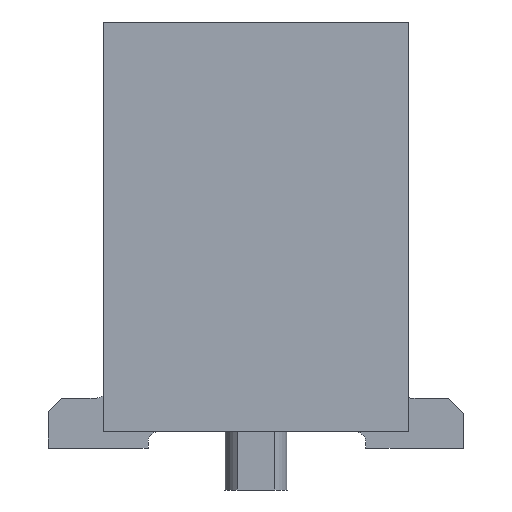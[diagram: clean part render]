
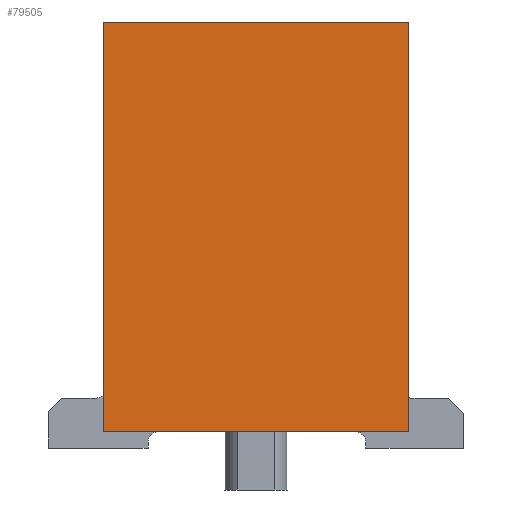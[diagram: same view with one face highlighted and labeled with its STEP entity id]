
A CAD part, left-side view. The second image highlights one B-rep face of the part: STEP entity #79505.
In plain terms, the highlighted planar face has unit normal (-1, 0, 0).
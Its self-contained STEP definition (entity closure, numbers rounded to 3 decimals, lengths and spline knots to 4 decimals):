
#2047 = LINE ( 'NONE', #9378, #74080 ) ;
#2541 = DIRECTION ( 'NONE',  ( 0., 0., -1. ) ) ;
#5455 = CARTESIAN_POINT ( 'NONE',  ( -83.5363, 90.4905, 4.9 ) ) ;
#5603 = EDGE_CURVE ( 'NONE', #43864, #75769, #94354, .T. ) ;
#5959 = PLANE ( 'NONE',  #14565 ) ;
#7474 = EDGE_CURVE ( 'NONE', #60030, #48113, #2047, .T. ) ;
#9378 = CARTESIAN_POINT ( 'NONE',  ( -83.5363, 90.4905, 4.9 ) ) ;
#11353 = VECTOR ( 'NONE', #21494, 1000. ) ;
#11501 = CARTESIAN_POINT ( 'NONE',  ( -83.5363, 94.1405, 0. ) ) ;
#11686 = EDGE_LOOP ( 'NONE', ( #20256, #69667, #33349, #55786 ) ) ;
#11695 = CARTESIAN_POINT ( 'NONE',  ( -83.5363, 94.1405, 0. ) ) ;
#14565 = AXIS2_PLACEMENT_3D ( 'NONE', #88562, #51882, #81216 ) ;
#15297 = DIRECTION ( 'NONE',  ( 0., 1., 0. ) ) ;
#18551 = DIRECTION ( 'NONE',  ( 0., -1., 0. ) ) ;
#20156 = FACE_OUTER_BOUND ( 'NONE', #11686, .T. ) ;
#20256 = ORIENTED_EDGE ( 'NONE', *, *, #64178, .T. ) ;
#21494 = DIRECTION ( 'NONE',  ( 0., 0., -1. ) ) ;
#25113 = CARTESIAN_POINT ( 'NONE',  ( -83.5363, 90.4905, 0. ) ) ;
#28333 = CARTESIAN_POINT ( 'NONE',  ( -83.5363, 94.1405, 4.9 ) ) ;
#28645 = LINE ( 'NONE', #11695, #68711 ) ;
#33349 = ORIENTED_EDGE ( 'NONE', *, *, #80280, .T. ) ;
#43864 = VERTEX_POINT ( 'NONE', #54278 ) ;
#48113 = VERTEX_POINT ( 'NONE', #25113 ) ;
#51882 = DIRECTION ( 'NONE',  ( 1., 0., 0. ) ) ;
#52462 = LINE ( 'NONE', #82273, #69358 ) ;
#54278 = CARTESIAN_POINT ( 'NONE',  ( -83.5363, 94.1405, 4.9 ) ) ;
#55786 = ORIENTED_EDGE ( 'NONE', *, *, #5603, .T. ) ;
#60030 = VERTEX_POINT ( 'NONE', #5455 ) ;
#64178 = EDGE_CURVE ( 'NONE', #75769, #48113, #28645, .T. ) ;
#68711 = VECTOR ( 'NONE', #18551, 1000. ) ;
#69358 = VECTOR ( 'NONE', #15297, 1000. ) ;
#69667 = ORIENTED_EDGE ( 'NONE', *, *, #7474, .F. ) ;
#74080 = VECTOR ( 'NONE', #2541, 1000. ) ;
#75769 = VERTEX_POINT ( 'NONE', #11501 ) ;
#79505 = ADVANCED_FACE ( 'NONE', ( #20156 ), #5959, .F. ) ;
#80280 = EDGE_CURVE ( 'NONE', #60030, #43864, #52462, .T. ) ;
#81216 = DIRECTION ( 'NONE',  ( 0., 1., 0. ) ) ;
#82273 = CARTESIAN_POINT ( 'NONE',  ( -83.5363, 90.4905, 4.9 ) ) ;
#88562 = CARTESIAN_POINT ( 'NONE',  ( -83.5363, 94.1405, 0. ) ) ;
#94354 = LINE ( 'NONE', #28333, #11353 ) ;
